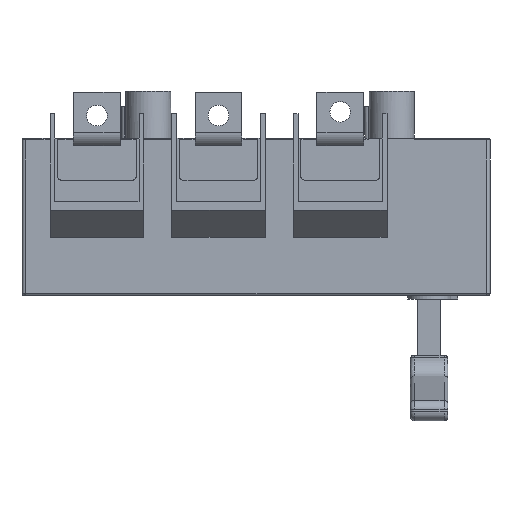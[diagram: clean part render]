
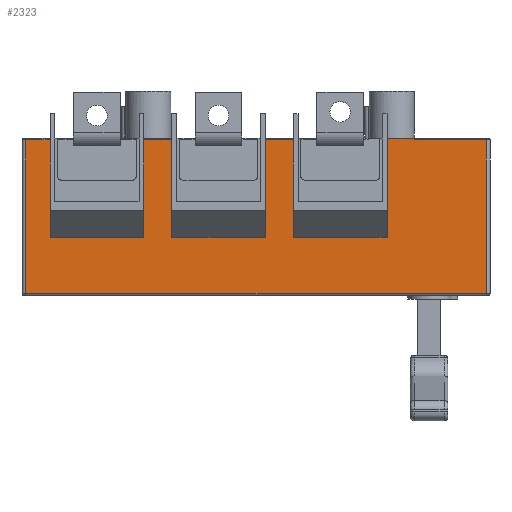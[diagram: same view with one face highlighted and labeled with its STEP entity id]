
A CAD part, front view. The second image highlights one B-rep face of the part: STEP entity #2323.
In plain terms, the highlighted planar face has unit normal (0, -1, 0).
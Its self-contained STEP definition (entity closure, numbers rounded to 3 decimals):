
#62=PLANE('',#7889);
#340=FACE_OUTER_BOUND('',#3006,.T.);
#686=LINE('',#10806,#1500);
#719=LINE('',#10928,#1533);
#752=LINE('',#11006,#1566);
#753=LINE('',#11009,#1567);
#754=LINE('',#11011,#1568);
#755=LINE('',#11013,#1569);
#756=LINE('',#11015,#1570);
#757=LINE('',#11017,#1571);
#758=LINE('',#11018,#1572);
#759=LINE('',#11020,#1573);
#760=LINE('',#11022,#1574);
#761=LINE('',#11024,#1575);
#762=LINE('',#11026,#1576);
#763=LINE('',#11028,#1577);
#764=LINE('',#11030,#1578);
#765=LINE('',#11032,#1579);
#766=LINE('',#11034,#1580);
#767=LINE('',#11035,#1581);
#1500=VECTOR('',#8579,1.);
#1533=VECTOR('',#8644,1.);
#1566=VECTOR('',#8699,1.);
#1567=VECTOR('',#8700,1.);
#1568=VECTOR('',#8701,1.);
#1569=VECTOR('',#8702,1.);
#1570=VECTOR('',#8703,1.);
#1571=VECTOR('',#8704,1.);
#1572=VECTOR('',#8705,1.);
#1573=VECTOR('',#8706,1.);
#1574=VECTOR('',#8707,1.);
#1575=VECTOR('',#8708,1.);
#1576=VECTOR('',#8709,1.);
#1577=VECTOR('',#8710,1.);
#1578=VECTOR('',#8711,1.);
#1579=VECTOR('',#8712,1.);
#1580=VECTOR('',#8713,1.);
#1581=VECTOR('',#8714,1.);
#2323=ADVANCED_FACE('',(#340),#62,.T.);
#3006=EDGE_LOOP('',(#3583,#3584,#3585,#3586,#3587,#3588,#3589,#3590,#3591,
#3592,#3593,#3594,#3595,#3596,#3597,#3598,#3599,#3600));
#3583=ORIENTED_EDGE('',*,*,#6525,.F.);
#3584=ORIENTED_EDGE('',*,*,#6526,.T.);
#3585=ORIENTED_EDGE('',*,*,#6527,.T.);
#3586=ORIENTED_EDGE('',*,*,#6528,.F.);
#3587=ORIENTED_EDGE('',*,*,#6529,.F.);
#3588=ORIENTED_EDGE('',*,*,#6530,.T.);
#3589=ORIENTED_EDGE('',*,*,#6486,.T.);
#3590=ORIENTED_EDGE('',*,*,#6531,.F.);
#3591=ORIENTED_EDGE('',*,*,#6532,.T.);
#3592=ORIENTED_EDGE('',*,*,#6533,.T.);
#3593=ORIENTED_EDGE('',*,*,#6534,.T.);
#3594=ORIENTED_EDGE('',*,*,#6535,.T.);
#3595=ORIENTED_EDGE('',*,*,#6536,.F.);
#3596=ORIENTED_EDGE('',*,*,#6537,.F.);
#3597=ORIENTED_EDGE('',*,*,#6538,.F.);
#3598=ORIENTED_EDGE('',*,*,#6539,.T.);
#3599=ORIENTED_EDGE('',*,*,#6441,.T.);
#3600=ORIENTED_EDGE('',*,*,#6540,.F.);
#5715=VERTEX_POINT('',#10805);
#5716=VERTEX_POINT('',#10807);
#5756=VERTEX_POINT('',#10927);
#5757=VERTEX_POINT('',#10929);
#5791=VERTEX_POINT('',#11007);
#5792=VERTEX_POINT('',#11008);
#5793=VERTEX_POINT('',#11010);
#5794=VERTEX_POINT('',#11012);
#5795=VERTEX_POINT('',#11014);
#5796=VERTEX_POINT('',#11016);
#5797=VERTEX_POINT('',#11019);
#5798=VERTEX_POINT('',#11021);
#5799=VERTEX_POINT('',#11023);
#5800=VERTEX_POINT('',#11025);
#5801=VERTEX_POINT('',#11027);
#5802=VERTEX_POINT('',#11029);
#5803=VERTEX_POINT('',#11031);
#5804=VERTEX_POINT('',#11033);
#6441=EDGE_CURVE('',#5716,#5715,#686,.T.);
#6486=EDGE_CURVE('',#5757,#5756,#719,.T.);
#6525=EDGE_CURVE('',#5791,#5792,#752,.T.);
#6526=EDGE_CURVE('',#5791,#5793,#753,.T.);
#6527=EDGE_CURVE('',#5793,#5794,#754,.T.);
#6528=EDGE_CURVE('',#5795,#5794,#755,.T.);
#6529=EDGE_CURVE('',#5796,#5795,#756,.T.);
#6530=EDGE_CURVE('',#5796,#5757,#757,.T.);
#6531=EDGE_CURVE('',#5797,#5756,#758,.T.);
#6532=EDGE_CURVE('',#5797,#5798,#759,.T.);
#6533=EDGE_CURVE('',#5798,#5799,#760,.T.);
#6534=EDGE_CURVE('',#5799,#5800,#761,.T.);
#6535=EDGE_CURVE('',#5800,#5801,#762,.T.);
#6536=EDGE_CURVE('',#5802,#5801,#763,.T.);
#6537=EDGE_CURVE('',#5803,#5802,#764,.T.);
#6538=EDGE_CURVE('',#5804,#5803,#765,.T.);
#6539=EDGE_CURVE('',#5804,#5716,#766,.T.);
#6540=EDGE_CURVE('',#5792,#5715,#767,.T.);
#7889=AXIS2_PLACEMENT_3D('',#11036,#8715,#8716);
#8579=DIRECTION('',(-1.,0.,0.));
#8644=DIRECTION('',(-1.,0.,0.));
#8699=DIRECTION('',(1.,0.,0.));
#8700=DIRECTION('',(0.,0.,1.));
#8701=DIRECTION('',(-1.,0.,0.));
#8702=DIRECTION('',(0.,0.,1.));
#8703=DIRECTION('',(1.,0.,0.));
#8704=DIRECTION('',(0.,0.,1.));
#8705=DIRECTION('',(0.,0.,1.));
#8706=DIRECTION('',(1.,0.,0.));
#8707=DIRECTION('',(0.,0.,1.));
#8708=DIRECTION('',(-1.,0.,0.));
#8709=DIRECTION('',(0.,0.,1.));
#8710=DIRECTION('',(1.,0.,0.));
#8711=DIRECTION('',(0.,0.,1.));
#8712=DIRECTION('',(1.,0.,0.));
#8713=DIRECTION('',(0.,0.,1.));
#8714=DIRECTION('',(0.,0.,1.));
#8715=DIRECTION('',(0.,-1.,0.));
#8716=DIRECTION('',(1.,0.,0.));
#10805=CARTESIAN_POINT('',(-67.5,-52.5,-1.));
#10806=CARTESIAN_POINT('',(-195.5,-52.5,-1.));
#10807=CARTESIAN_POINT('',(-52.5,-52.5,-1.));
#10927=CARTESIAN_POINT('',(-195.5,-52.5,-1.));
#10928=CARTESIAN_POINT('',(-195.5,-52.5,-1.));
#10929=CARTESIAN_POINT('',(-182.5,-52.5,-1.));
#11006=CARTESIAN_POINT('',(-117.5,-52.5,-53.));
#11007=CARTESIAN_POINT('',(-117.5,-52.5,-53.));
#11008=CARTESIAN_POINT('',(-67.5,-52.5,-53.));
#11009=CARTESIAN_POINT('',(-117.5,-52.5,-53.));
#11010=CARTESIAN_POINT('',(-117.5,-52.5,-1.));
#11011=CARTESIAN_POINT('',(-195.5,-52.5,-1.));
#11012=CARTESIAN_POINT('',(-132.5,-52.5,-1.));
#11013=CARTESIAN_POINT('',(-132.5,-52.5,-53.));
#11014=CARTESIAN_POINT('',(-132.5,-52.5,-53.));
#11015=CARTESIAN_POINT('',(-182.5,-52.5,-53.));
#11016=CARTESIAN_POINT('',(-182.5,-52.5,-53.));
#11017=CARTESIAN_POINT('',(-182.5,-52.5,-53.));
#11018=CARTESIAN_POINT('',(-195.5,-52.5,-84.));
#11019=CARTESIAN_POINT('',(-195.5,-52.5,-83.));
#11020=CARTESIAN_POINT('',(-12.,-52.5,-83.));
#11021=CARTESIAN_POINT('',(50.5,-52.5,-83.));
#11022=CARTESIAN_POINT('',(50.5,-52.5,-84.));
#11023=CARTESIAN_POINT('',(50.5,-52.5,-1.));
#11024=CARTESIAN_POINT('',(12.,-52.5,-1.));
#11025=CARTESIAN_POINT('',(12.,-52.5,-1.));
#11026=CARTESIAN_POINT('',(12.,-52.5,4.));
#11027=CARTESIAN_POINT('',(12.,-52.5,0.));
#11028=CARTESIAN_POINT('',(50.5,-52.5,0.));
#11029=CARTESIAN_POINT('',(-2.5,-52.5,0.));
#11030=CARTESIAN_POINT('',(-2.5,-52.5,-53.));
#11031=CARTESIAN_POINT('',(-2.5,-52.5,-53.));
#11032=CARTESIAN_POINT('',(-52.5,-52.5,-53.));
#11033=CARTESIAN_POINT('',(-52.5,-52.5,-53.));
#11034=CARTESIAN_POINT('',(-52.5,-52.5,-53.));
#11035=CARTESIAN_POINT('',(-67.5,-52.5,-53.));
#11036=CARTESIAN_POINT('',(-12.,-52.5,4.));
